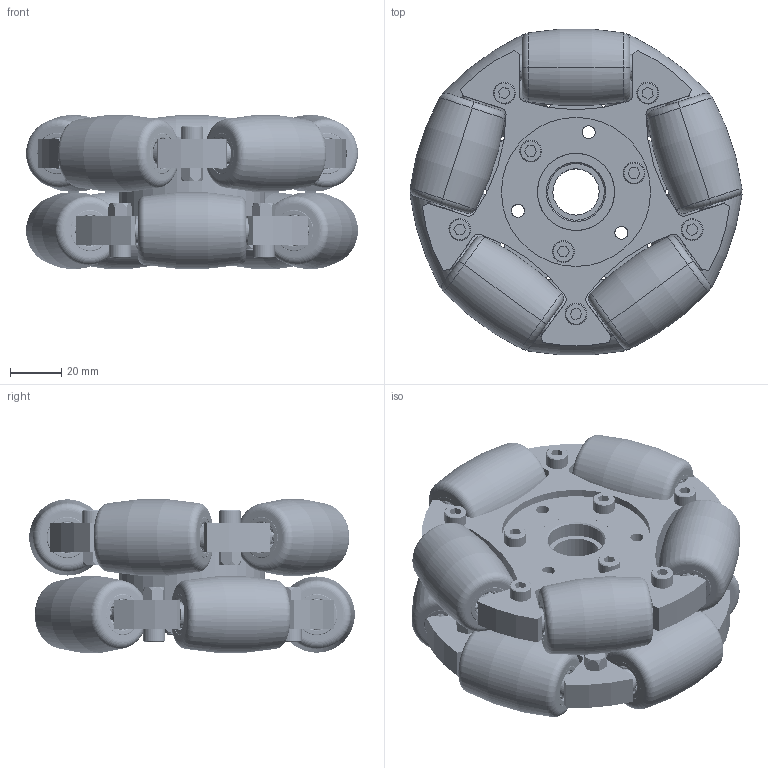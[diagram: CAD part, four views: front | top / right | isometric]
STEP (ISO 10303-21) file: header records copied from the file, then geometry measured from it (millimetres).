
FILE_DESCRIPTION (( 'STEP AP214' ), '1' );
FILE_NAME ('MO120.STEP', '2014-04-09T06:21:41', ( 'Sky123.Org' ), ( 'Sky123.Org' ), 'SwSTEP 2.0', 'SolidWorks 2010', '' );
FILE_SCHEMA (( 'AUTOMOTIVE_DESIGN' ));
Length unit declared in the file: millimetre
Products named in the file (12): MO120; 5IN-90-5BB-01-1; M5_GB_HEXAGON_LOCK_TYPE5 M5-N-1; M5X40-1; 5IN-90-5B-02-01-1; 5IN-90-5B-02-02-1; M5-1; M5X16-1; 625-1; 朴5-1; 5IN-90-5B-02-03-01-1; 5IN-90-5B-02-03-02-1
Assembly tree (93 placements, depth 2):
  MO120
    朴5-1  x20
    M5_GB_HEXAGON_LOCK_TYPE5 M5-N-1  x3
    M5X40-1  x3
    M5X16-1  x10
    M5-1  x10
    625-1  x20
    5IN-90-5B-02-03-02-1  x10
    5IN-90-5B-02-01-1  x2
    5IN-90-5B-02-03-01-1  x10
    5IN-90-5B-02-02-1  x4
    5IN-90-5BB-01-1
Bounding box: 129.16 x 126.63 x 59.63 mm (x, y, z)
Volume: 409526.4 mm3; surface area: 179583.5 mm2
Topology: 273 solids, 273 shells, 2473 faces, 5780 edges, 3283 vertices
Faces by surface type: cylinder 772, bspline 720, plane 652, cone 229, torus 100
Entity records: 14526 total; most frequent: CARTESIAN_POINT 2966, DIRECTION 2069, ORIENTED_EDGE 1818, EDGE_CURVE 909, AXIS2_PLACEMENT_3D 803, VERTEX_POINT 590, LINE 463, VECTOR 463
